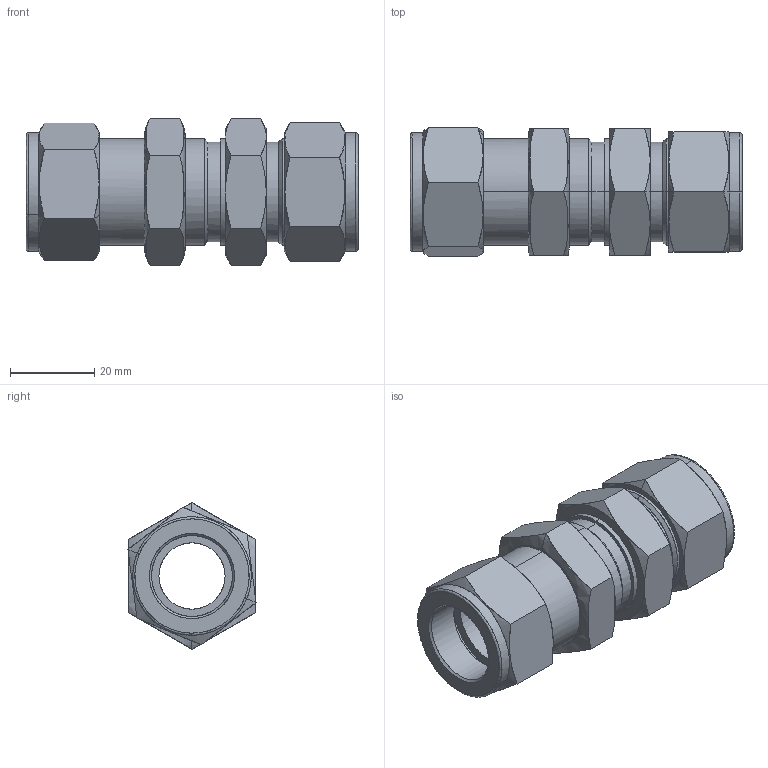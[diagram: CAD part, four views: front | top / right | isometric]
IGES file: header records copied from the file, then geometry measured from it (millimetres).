
Start section: Comment
Global section: file name: SBHU-12.igs; native system:  By UGS Corp.; preprocessor: XPlus GENERIC/IGES 3.0; author: Author; organization: Title; date: 20100528.112118; units: millimetre
Bounding box: 78.99 x 30.5 x 34.83 mm (x, y, z)
Surface area: 18909.8 mm2 (no closed solid volume)
Topology: 0 solids, 0 shells, 126 faces, 536 edges, 536 vertices
Faces by surface type: bspline 126
